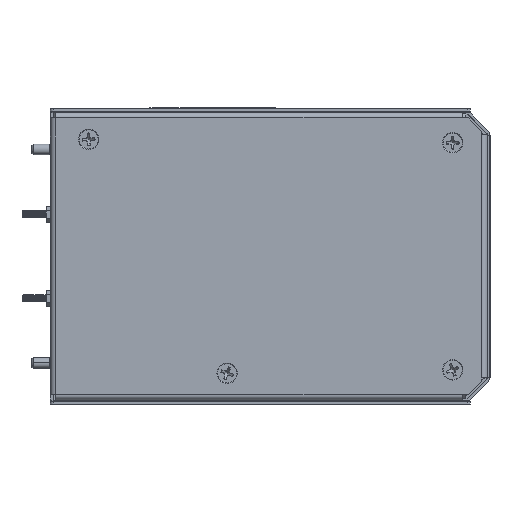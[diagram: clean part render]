
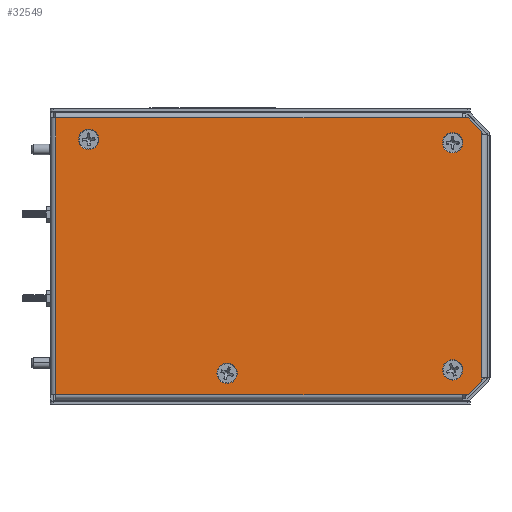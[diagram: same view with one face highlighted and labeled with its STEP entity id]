
A CAD part, front view. The second image highlights one B-rep face of the part: STEP entity #32549.
In plain terms, the highlighted planar face has unit normal (0, -1, 0).
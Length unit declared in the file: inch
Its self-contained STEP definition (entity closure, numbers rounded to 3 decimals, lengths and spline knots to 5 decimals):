
#22 = VECTOR ( 'NONE', #6884, 39.37008 ) ;
#749 = DIRECTION ( 'NONE',  ( 0., -1., 0. ) ) ;
#787 = EDGE_CURVE ( 'NONE', #64727, #18377, #42159, .T. ) ;
#999 = DIRECTION ( 'NONE',  ( -1., 0., 0. ) ) ;
#1912 = DIRECTION ( 'NONE',  ( -1., 0., 0. ) ) ;
#3913 = CARTESIAN_POINT ( 'NONE',  ( 3.08889, -2.145, 1.345 ) ) ;
#4608 = EDGE_LOOP ( 'NONE', ( #79038 ) ) ;
#4868 = EDGE_CURVE ( 'NONE', #13137, #22759, #51689, .T. ) ;
#4930 = EDGE_CURVE ( 'NONE', #9808, #10304, #59791, .T. ) ;
#4995 = VECTOR ( 'NONE', #999, 39.37008 ) ;
#5123 = ORIENTED_EDGE ( 'NONE', *, *, #42531, .T. ) ;
#6884 = DIRECTION ( 'NONE',  ( -1., 0., 0. ) ) ;
#8923 = CARTESIAN_POINT ( 'NONE',  ( 0.27289, -2.145, -1.2928 ) ) ;
#8924 = ORIENTED_EDGE ( 'NONE', *, *, #100008, .F. ) ;
#8929 = VERTEX_POINT ( 'NONE', #65178 ) ;
#9471 = CARTESIAN_POINT ( 'NONE',  ( -1.25811, -2.145, 1.4055 ) ) ;
#9808 = VERTEX_POINT ( 'NONE', #16158 ) ;
#9951 = EDGE_LOOP ( 'NONE', ( #71156, #5123, #71751, #89602, #8924, #93456, #89474, #68460, #47947, #83755, #47536, #21162 ) ) ;
#10082 = DIRECTION ( 'NONE',  ( -0.707, 0., 0.707 ) ) ;
#10304 = VERTEX_POINT ( 'NONE', #3913 ) ;
#12199 = AXIS2_PLACEMENT_3D ( 'NONE', #8923, #749, #81948 ) ;
#12652 = CARTESIAN_POINT ( 'NONE',  ( 2.93889, -2.145, -1.53 ) ) ;
#13137 = VERTEX_POINT ( 'NONE', #69920 ) ;
#14083 = CARTESIAN_POINT ( 'NONE',  ( 3.08889, -2.145, 1.53 ) ) ;
#15727 = EDGE_CURVE ( 'NONE', #57025, #57025, #28373, .T. ) ;
#16158 = CARTESIAN_POINT ( 'NONE',  ( 3.08989, -2.145, 1.345 ) ) ;
#17571 = VERTEX_POINT ( 'NONE', #35961 ) ;
#18067 = FACE_BOUND ( 'NONE', #4608, .T. ) ;
#18213 = VERTEX_POINT ( 'NONE', #41069 ) ;
#18377 = VERTEX_POINT ( 'NONE', #93594 ) ;
#18508 = DIRECTION ( 'NONE',  ( 0., -1., 0. ) ) ;
#18726 = CARTESIAN_POINT ( 'NONE',  ( 3.08889, -2.145, 1.38 ) ) ;
#19753 = DIRECTION ( 'NONE',  ( 1., 0., 0. ) ) ;
#20428 = VERTEX_POINT ( 'NONE', #97120 ) ;
#20480 = VECTOR ( 'NONE', #39580, 39.37008 ) ;
#20829 = CARTESIAN_POINT ( 'NONE',  ( 3.08989, -2.145, 1.345 ) ) ;
#21003 = EDGE_CURVE ( 'NONE', #50018, #50018, #45030, .T. ) ;
#21162 = ORIENTED_EDGE ( 'NONE', *, *, #73766, .T. ) ;
#21305 = VERTEX_POINT ( 'NONE', #46785 ) ;
#21709 = LINE ( 'NONE', #14083, #43828 ) ;
#21847 = ORIENTED_EDGE ( 'NONE', *, *, #21003, .F. ) ;
#22759 = VERTEX_POINT ( 'NONE', #23457 ) ;
#22845 = VECTOR ( 'NONE', #1912, 39.37008 ) ;
#23457 = CARTESIAN_POINT ( 'NONE',  ( 2.93889, -2.145, 1.53 ) ) ;
#24732 = EDGE_CURVE ( 'NONE', #18377, #20428, #72502, .T. ) ;
#28373 = CIRCLE ( 'NONE', #31817, 0.1125 ) ;
#28914 = EDGE_CURVE ( 'NONE', #8929, #8929, #86979, .T. ) ;
#31235 = CARTESIAN_POINT ( 'NONE',  ( -1.62011, -2.145, -1.53 ) ) ;
#31817 = AXIS2_PLACEMENT_3D ( 'NONE', #59558, #18508, #51453 ) ;
#32549 = ADVANCED_FACE ( 'NONE', ( #18067, #32698, #58055, #82974, #45089 ), #52098, .F. ) ;
#32698 = FACE_BOUND ( 'NONE', #68725, .T. ) ;
#35449 = LINE ( 'NONE', #78160, #106560 ) ;
#35913 = DIRECTION ( 'NONE',  ( 0., 1., 0. ) ) ;
#35961 = CARTESIAN_POINT ( 'NONE',  ( 0.27289, -2.145, -1.1803 ) ) ;
#36017 = EDGE_CURVE ( 'NONE', #17571, #17571, #74428, .T. ) ;
#36484 = DIRECTION ( 'NONE',  ( 0.707, 0., 0.707 ) ) ;
#37501 = CARTESIAN_POINT ( 'NONE',  ( -1.68011, -2.145, 0. ) ) ;
#37702 = DIRECTION ( 'NONE',  ( 0., 0., -1. ) ) ;
#37767 = LINE ( 'NONE', #79448, #22 ) ;
#38463 = EDGE_CURVE ( 'NONE', #22759, #95618, #21709, .T. ) ;
#39580 = DIRECTION ( 'NONE',  ( 1., 0., 0. ) ) ;
#40283 = AXIS2_PLACEMENT_3D ( 'NONE', #59840, #42611, #59290 ) ;
#41069 = CARTESIAN_POINT ( 'NONE',  ( 2.93889, -2.145, -1.53 ) ) ;
#41626 = CARTESIAN_POINT ( 'NONE',  ( 3.08889, -2.145, 1.59 ) ) ;
#42159 = LINE ( 'NONE', #75160, #4995 ) ;
#42531 = EDGE_CURVE ( 'NONE', #18213, #20428, #71576, .T. ) ;
#42611 = DIRECTION ( 'NONE',  ( 0., -1., 0. ) ) ;
#43828 = VECTOR ( 'NONE', #54651, 39.37008 ) ;
#44881 = CARTESIAN_POINT ( 'NONE',  ( 3.08989, -2.145, -1.345 ) ) ;
#44958 = EDGE_CURVE ( 'NONE', #103645, #84004, #85445, .T. ) ;
#45030 = CIRCLE ( 'NONE', #100327, 0.1125 ) ;
#45089 = FACE_OUTER_BOUND ( 'NONE', #9951, .T. ) ;
#46785 = CARTESIAN_POINT ( 'NONE',  ( 2.87089, -2.145, -1.53 ) ) ;
#47536 = ORIENTED_EDGE ( 'NONE', *, *, #44958, .T. ) ;
#47947 = ORIENTED_EDGE ( 'NONE', *, *, #38463, .T. ) ;
#48665 = DIRECTION ( 'NONE',  ( 0., 0., -1. ) ) ;
#49554 = CARTESIAN_POINT ( 'NONE',  ( -1.25811, -2.145, 1.293 ) ) ;
#50018 = VERTEX_POINT ( 'NONE', #9471 ) ;
#51453 = DIRECTION ( 'NONE',  ( 0., 0., 1. ) ) ;
#51689 = LINE ( 'NONE', #18726, #69444 ) ;
#52098 = PLANE ( 'NONE',  #94321 ) ;
#54651 = DIRECTION ( 'NONE',  ( -1., 0., 0. ) ) ;
#55411 = ORIENTED_EDGE ( 'NONE', *, *, #28914, .F. ) ;
#57025 = VERTEX_POINT ( 'NONE', #58096 ) ;
#57621 = DIRECTION ( 'NONE',  ( 0., 0., 1. ) ) ;
#58055 = FACE_BOUND ( 'NONE', #60309, .T. ) ;
#58096 = CARTESIAN_POINT ( 'NONE',  ( 2.76689, -2.145, -1.1435 ) ) ;
#59013 = CARTESIAN_POINT ( 'NONE',  ( 2.87089, -2.145, 1.53 ) ) ;
#59290 = DIRECTION ( 'NONE',  ( 0., 0., 1. ) ) ;
#59558 = CARTESIAN_POINT ( 'NONE',  ( 2.76689, -2.145, -1.256 ) ) ;
#59791 = LINE ( 'NONE', #76064, #22845 ) ;
#59840 = CARTESIAN_POINT ( 'NONE',  ( 2.76689, -2.145, 1.256 ) ) ;
#60309 = EDGE_LOOP ( 'NONE', ( #60356 ) ) ;
#60356 = ORIENTED_EDGE ( 'NONE', *, *, #36017, .F. ) ;
#62115 = EDGE_CURVE ( 'NONE', #21305, #18213, #35449, .T. ) ;
#64727 = VERTEX_POINT ( 'NONE', #44881 ) ;
#65178 = CARTESIAN_POINT ( 'NONE',  ( 2.76689, -2.145, 1.3685 ) ) ;
#68141 = VECTOR ( 'NONE', #48665, 39.37008 ) ;
#68460 = ORIENTED_EDGE ( 'NONE', *, *, #4868, .T. ) ;
#68725 = EDGE_LOOP ( 'NONE', ( #55411 ) ) ;
#69444 = VECTOR ( 'NONE', #10082, 39.37008 ) ;
#69920 = CARTESIAN_POINT ( 'NONE',  ( 3.08889, -2.145, 1.38 ) ) ;
#71156 = ORIENTED_EDGE ( 'NONE', *, *, #62115, .T. ) ;
#71477 = LINE ( 'NONE', #80685, #20480 ) ;
#71576 = LINE ( 'NONE', #12652, #89033 ) ;
#71632 = LINE ( 'NONE', #20829, #71671 ) ;
#71671 = VECTOR ( 'NONE', #88493, 39.37008 ) ;
#71751 = ORIENTED_EDGE ( 'NONE', *, *, #24732, .F. ) ;
#72502 = LINE ( 'NONE', #41626, #68141 ) ;
#73766 = EDGE_CURVE ( 'NONE', #84004, #21305, #71477, .T. ) ;
#74428 = CIRCLE ( 'NONE', #12199, 0.1125 ) ;
#75160 = CARTESIAN_POINT ( 'NONE',  ( 3.08989, -2.145, -1.345 ) ) ;
#76064 = CARTESIAN_POINT ( 'NONE',  ( 3.08989, -2.145, 1.345 ) ) ;
#77057 = CARTESIAN_POINT ( 'NONE',  ( -1.62011, -2.145, 1.53 ) ) ;
#77541 = DIRECTION ( 'NONE',  ( 0., 0., -1. ) ) ;
#77848 = CARTESIAN_POINT ( 'NONE',  ( -1.62011, -2.145, 1.59 ) ) ;
#78160 = CARTESIAN_POINT ( 'NONE',  ( 3.08889, -2.145, -1.53 ) ) ;
#78592 = VECTOR ( 'NONE', #79987, 39.37008 ) ;
#79038 = ORIENTED_EDGE ( 'NONE', *, *, #15727, .F. ) ;
#79448 = CARTESIAN_POINT ( 'NONE',  ( 3.08889, -2.145, 1.53 ) ) ;
#79905 = LINE ( 'NONE', #95653, #95296 ) ;
#79987 = DIRECTION ( 'NONE',  ( 0., 0., -1. ) ) ;
#80685 = CARTESIAN_POINT ( 'NONE',  ( -1.62011, -2.145, -1.53 ) ) ;
#81948 = DIRECTION ( 'NONE',  ( 0., 0., 1. ) ) ;
#82974 = FACE_BOUND ( 'NONE', #85937, .T. ) ;
#83755 = ORIENTED_EDGE ( 'NONE', *, *, #105672, .T. ) ;
#84004 = VERTEX_POINT ( 'NONE', #31235 ) ;
#85445 = LINE ( 'NONE', #77848, #78592 ) ;
#85937 = EDGE_LOOP ( 'NONE', ( #21847 ) ) ;
#86979 = CIRCLE ( 'NONE', #40283, 0.1125 ) ;
#88493 = DIRECTION ( 'NONE',  ( 0., 0., -1. ) ) ;
#89033 = VECTOR ( 'NONE', #36484, 39.37008 ) ;
#89474 = ORIENTED_EDGE ( 'NONE', *, *, #90841, .F. ) ;
#89602 = ORIENTED_EDGE ( 'NONE', *, *, #787, .F. ) ;
#90841 = EDGE_CURVE ( 'NONE', #13137, #10304, #79905, .T. ) ;
#93456 = ORIENTED_EDGE ( 'NONE', *, *, #4930, .T. ) ;
#93594 = CARTESIAN_POINT ( 'NONE',  ( 3.08889, -2.145, -1.345 ) ) ;
#94321 = AXIS2_PLACEMENT_3D ( 'NONE', #37501, #35913, #77541 ) ;
#95296 = VECTOR ( 'NONE', #37702, 39.37008 ) ;
#95618 = VERTEX_POINT ( 'NONE', #59013 ) ;
#95653 = CARTESIAN_POINT ( 'NONE',  ( 3.08889, -2.145, 1.59 ) ) ;
#97120 = CARTESIAN_POINT ( 'NONE',  ( 3.08889, -2.145, -1.38 ) ) ;
#98827 = DIRECTION ( 'NONE',  ( 0., -1., 0. ) ) ;
#100008 = EDGE_CURVE ( 'NONE', #9808, #64727, #71632, .T. ) ;
#100327 = AXIS2_PLACEMENT_3D ( 'NONE', #49554, #98827, #57621 ) ;
#103645 = VERTEX_POINT ( 'NONE', #77057 ) ;
#105672 = EDGE_CURVE ( 'NONE', #95618, #103645, #37767, .T. ) ;
#106560 = VECTOR ( 'NONE', #19753, 39.37008 ) ;
